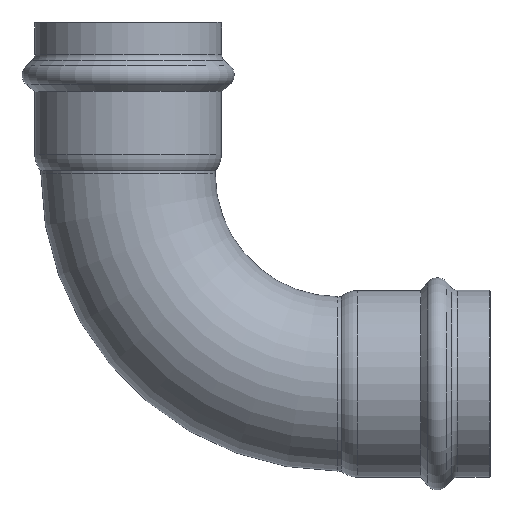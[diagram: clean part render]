
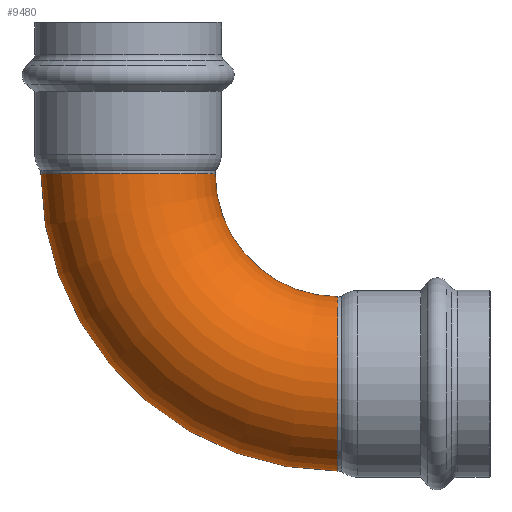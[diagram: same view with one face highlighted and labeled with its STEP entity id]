
A CAD part, top view. The second image highlights one B-rep face of the part: STEP entity #9480.
In plain terms, the highlighted toroidal (fillet/blend) face has major radius 65 mm and minor radius 27 mm.
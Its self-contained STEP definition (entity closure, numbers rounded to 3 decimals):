
#560=CARTESIAN_POINT('',(96.006,-55.948,
0.));
#570=VERTEX_POINT('',#560);
#600=CARTESIAN_POINT('',(96.006,-28.948,0.));
#610=DIRECTION('',(1.,0.,0.));
#620=DIRECTION('',(0.,1.,0.));
#630=AXIS2_PLACEMENT_3D('',#600,#610,#620);
#640=CIRCLE('',#630,27.);
#650=CARTESIAN_POINT('',(96.006,-1.948,0.));
#660=VERTEX_POINT('',#650);
#670=EDGE_CURVE('',#660,#570,#640,.T.);
#1190=CARTESIAN_POINT('',(96.006,36.052,0.));
#1200=DIRECTION('',(0.,0.,1.));
#1210=DIRECTION('',(-1.,0.,0.));
#1220=AXIS2_PLACEMENT_3D('',#1190,#1200,#1210);
#1230=TOROIDAL_SURFACE('',#1220,65.,27.);
#1240=CARTESIAN_POINT('',(96.006,36.052,0.));
#1250=DIRECTION('',(0.,0.,1.));
#1260=DIRECTION('',(-1.,0.,0.));
#1270=AXIS2_PLACEMENT_3D('',#1240,#1250,#1260);
#1280=CIRCLE('',#1270,38.);
#1290=CARTESIAN_POINT('',(58.006,36.052,0.));
#1300=VERTEX_POINT('',#1290);
#1310=EDGE_CURVE('',#1300,#660,#1280,.T.);
#1420=CARTESIAN_POINT('',(4.006,36.052,
0.));
#1430=VERTEX_POINT('',#1420);
#1460=CARTESIAN_POINT('',(96.006,36.052,0.
));
#1470=DIRECTION('',(0.,0.,1.));
#1480=DIRECTION('',(-1.,0.,0.));
#1490=AXIS2_PLACEMENT_3D('',#1460,#1470,#1480);
#1500=CIRCLE('',#1490,92.);
#1510=EDGE_CURVE('',#1430,#570,#1500,.T.);
#9360=ORIENTED_EDGE('',*,*,#670,.F.);
#9370=ORIENTED_EDGE('',*,*,#1510,.T.);
#9380=CARTESIAN_POINT('',(31.006,36.052,0.));
#9390=DIRECTION('',(0.,-1.,0.));
#9400=DIRECTION('',(1.,0.,0.));
#9410=AXIS2_PLACEMENT_3D('',#9380,#9390,#9400);
#9420=CIRCLE('',#9410,27.);
#9430=EDGE_CURVE('',#1300,#1430,#9420,.T.);
#9440=ORIENTED_EDGE('',*,*,#9430,.T.);
#9450=ORIENTED_EDGE('',*,*,#1310,.F.);
#9460=EDGE_LOOP('',(#9450,#9440,#9370,#9360));
#9470=FACE_OUTER_BOUND('',#9460,.T.);
#9480=ADVANCED_FACE('',(#9470),#1230,.T.);
